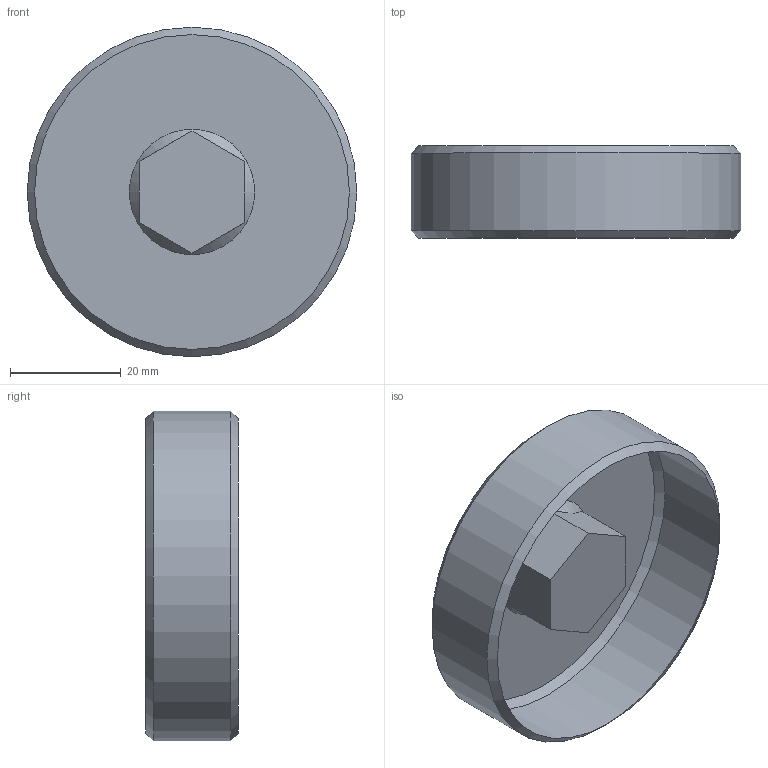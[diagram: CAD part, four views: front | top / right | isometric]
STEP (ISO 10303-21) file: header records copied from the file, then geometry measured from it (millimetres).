
FILE_DESCRIPTION(/* description */ (''),/* implementation_level */ '2;1');
FILE_NAME(/* name */ 'C:/Users/drich/Desktop/SF-2 v2.step',/* time_stamp */ '2020-01-08T20:59:03-06:00',/* author */ (''),/* organization */ (''),/* preprocessor_version */ 'ST-DEVELOPER v18',/* originating_system */ 'Autodesk Translation Framework v8.12.0.6',/* authorisation */ '');
FILE_SCHEMA (('AUTOMOTIVE_DESIGN { 1 0 10303 214 3 1 1 }'));
Length unit declared in the file: inch
Products named in the file (1): SF-2
Bounding box: 59.43 x 16.66 x 59.43 mm (x, y, z)
Volume: 42246.9 mm3; surface area: 9070.1 mm2
Topology: 1 solids, 1 shells, 13 faces, 38 edges, 27 vertices
Faces by surface type: plane 8, cone 4, cylinder 1
Full cylindrical faces by diameter (mm): 59.434 x1
Entity records: 458 total; most frequent: CARTESIAN_POINT 102, ORIENTED_EDGE 74, DIRECTION 61, EDGE_CURVE 37, VERTEX_POINT 27, AXIS2_PLACEMENT_3D 22, LINE 17, VECTOR 17
